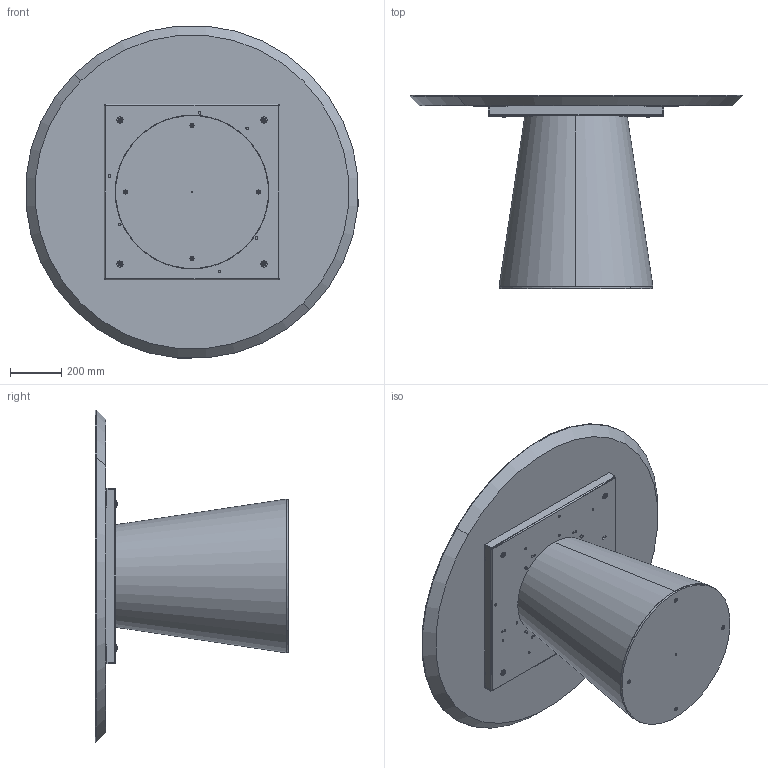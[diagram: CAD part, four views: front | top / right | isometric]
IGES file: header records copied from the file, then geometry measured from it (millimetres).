
Start section: SolidWorks IGES file using analytic representation for surfaces
Global section: file name: Y:\eforma\TECNICO\SOLIDWORKS\E-FORMA\1-TAVOLI\TEO\08 modelli 3D web\TO05W_Teo_d.130_Wood.IGS; native system: SolidWorks 2022; preprocessor: SolidWorks 2022; author: eforma.tech; date: 240802.111818; units: millimetre
Bounding box: 1295.05 x 753.19 x 1295.05 mm (x, y, z)
Volume: 80594887.2 mm3; surface area: 7155959.6 mm2
Topology: 20 solids, 20 shells, 806 faces, 2014 edges, 1238 vertices
Faces by surface type: revolution 436, plane 370
